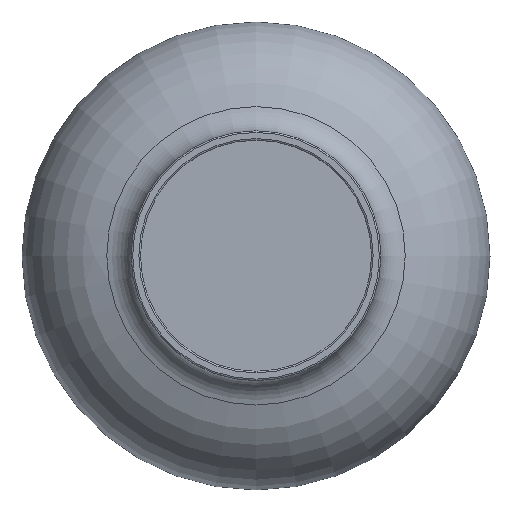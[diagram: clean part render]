
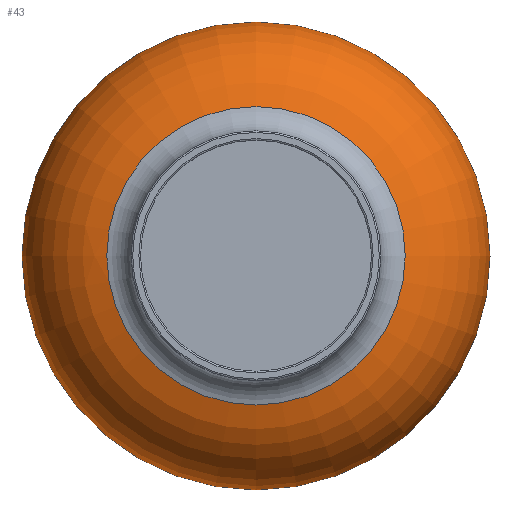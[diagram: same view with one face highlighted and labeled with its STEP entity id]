
A CAD part, top view. The second image highlights one B-rep face of the part: STEP entity #43.
In plain terms, the highlighted toroidal (fillet/blend) face has major radius 40 mm and minor radius 35 mm.
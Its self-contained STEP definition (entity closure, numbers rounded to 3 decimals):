
#43 = ADVANCED_FACE( '', ( #90, #91 ), #92, .T. );
#90 = FACE_OUTER_BOUND( '', #139, .T. );
#91 = FACE_OUTER_BOUND( '', #140, .T. );
#92 = TOROIDAL_SURFACE( '', #141, 40., 35. );
#139 = EDGE_LOOP( '', ( #190 ) );
#140 = EDGE_LOOP( '', ( #191 ) );
#141 = AXIS2_PLACEMENT_3D( '', #192, #193, #194 );
#190 = ORIENTED_EDGE( '', *, *, #241, .T. );
#191 = ORIENTED_EDGE( '', *, *, #242, .F. );
#192 = CARTESIAN_POINT( '', ( 0., 0., 35. ) );
#193 = DIRECTION( '', ( 0., 0., 1. ) );
#194 = DIRECTION( '', ( 1., 0., 0. ) );
#241 = EDGE_CURVE( '', #269, #269, #270, .T. );
#242 = EDGE_CURVE( '', #271, #271, #272, .T. );
#269 = VERTEX_POINT( '', #300 );
#270 = CIRCLE( '', #301, 47.778 );
#271 = VERTEX_POINT( '', #302 );
#272 = CIRCLE( '', #303, 40. );
#300 = CARTESIAN_POINT( '', ( -47.778, 0., 69.125 ) );
#301 = AXIS2_PLACEMENT_3D( '', #333, #334, #335 );
#302 = CARTESIAN_POINT( '', ( -40., 0., 0. ) );
#303 = AXIS2_PLACEMENT_3D( '', #336, #337, #338 );
#333 = CARTESIAN_POINT( '', ( 0., 0., 69.125 ) );
#334 = DIRECTION( '', ( 0., 0., -1. ) );
#335 = DIRECTION( '', ( -1., 0., 0. ) );
#336 = CARTESIAN_POINT( '', ( 0., 0., 0. ) );
#337 = DIRECTION( '', ( 0., 0., -1. ) );
#338 = DIRECTION( '', ( -1., 0., 0. ) );
